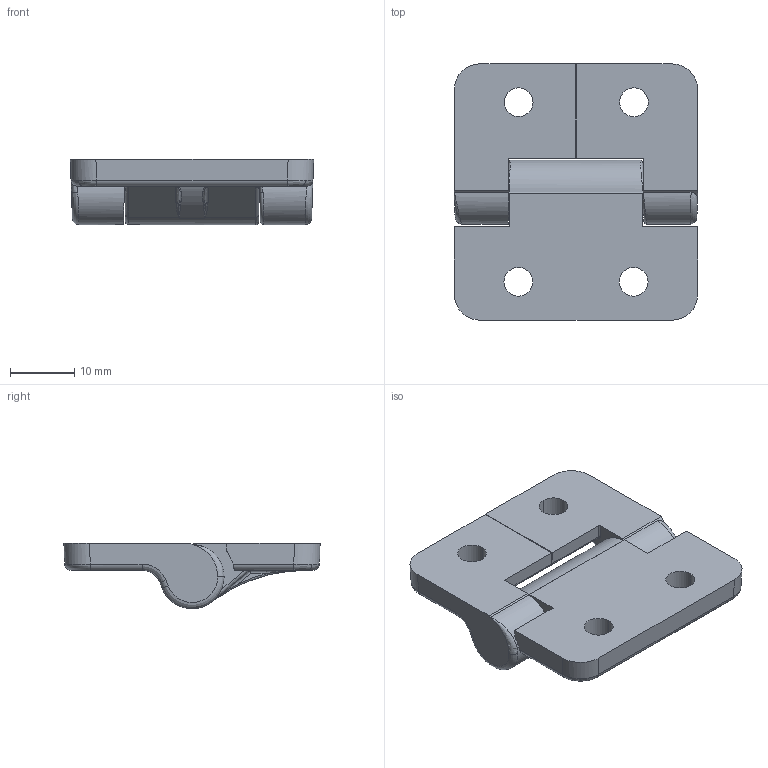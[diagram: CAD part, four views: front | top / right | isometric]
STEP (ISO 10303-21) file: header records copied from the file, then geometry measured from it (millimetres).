
FILE_DESCRIPTION (( 'STEP AP214' ), '1' );
FILE_NAME ('B17 KH-69-3.STEP', '2012-03-12T08:02:13', ( '' ), ( '' ), 'SwSTEP 2.0', 'SolidWorks 2012', '' );
FILE_SCHEMA (( 'AUTOMOTIVE_DESIGN' ));
Length unit declared in the file: millimetre
Products named in the file (4): HINGE B2; HINGE B1; HINGE A1; B17 KH-69-3
Assembly tree (3 placements, depth 2):
  B17 KH-69-3
    HINGE A1
    HINGE B1
    HINGE B2
Bounding box: 38 x 40 x 10.2 mm (x, y, z)
Volume: 6153.4 mm3; surface area: 5199.7 mm2
Topology: 3 solids, 3 shells, 155 faces, 389 edges, 233 vertices
Faces by surface type: bspline 62, cylinder 50, plane 35, cone 8
Entity records: 9870 total; most frequent: CARTESIAN_POINT 6580, ORIENTED_EDGE 750, DIRECTION 520, EDGE_CURVE 375, VERTEX_POINT 233, AXIS2_PLACEMENT_3D 198, EDGE_LOOP 172, FACE_OUTER_BOUND 155
